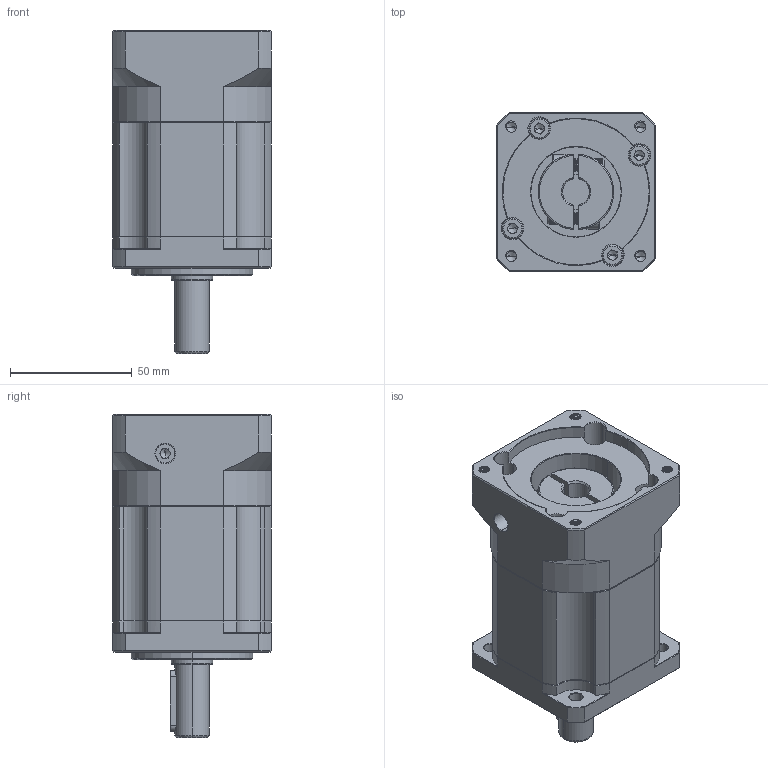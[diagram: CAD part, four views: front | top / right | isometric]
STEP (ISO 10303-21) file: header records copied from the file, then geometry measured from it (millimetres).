
FILE_DESCRIPTION (( 'STEP AP214' ), '1' );
FILE_NAME ('ZB060-D14-L2-P2-11-60-75-M5.step', '2023-08-16T07:01:02', ( '' ), ( '' ), 'SwSTEP 2.0', 'SolidWorks 2016', '' );
FILE_SCHEMA (( 'AUTOMOTIVE_DESIGN' ));
Length unit declared in the file: millimetre
Products named in the file (1): ZB060-D14-L2-P2-11-60-75-M5
Bounding box: 65 x 65 x 132.5 mm (x, y, z)
Volume: 325839.7 mm3; surface area: 58523.2 mm2
Topology: 6 solids, 6 shells, 2172 faces, 5855 edges, 3767 vertices
Faces by surface type: plane 1059, bspline 397, cylinder 396, cone 284, torus 36
Entity records: 118016 total; most frequent: CARTESIAN_POINT 42731, ORIENTED_EDGE 11650, DIRECTION 9188, EDGE_CURVE 5825, VERTEX_POINT 3767, LINE 3660, VECTOR 3660, AXIS2_PLACEMENT_3D 2764
